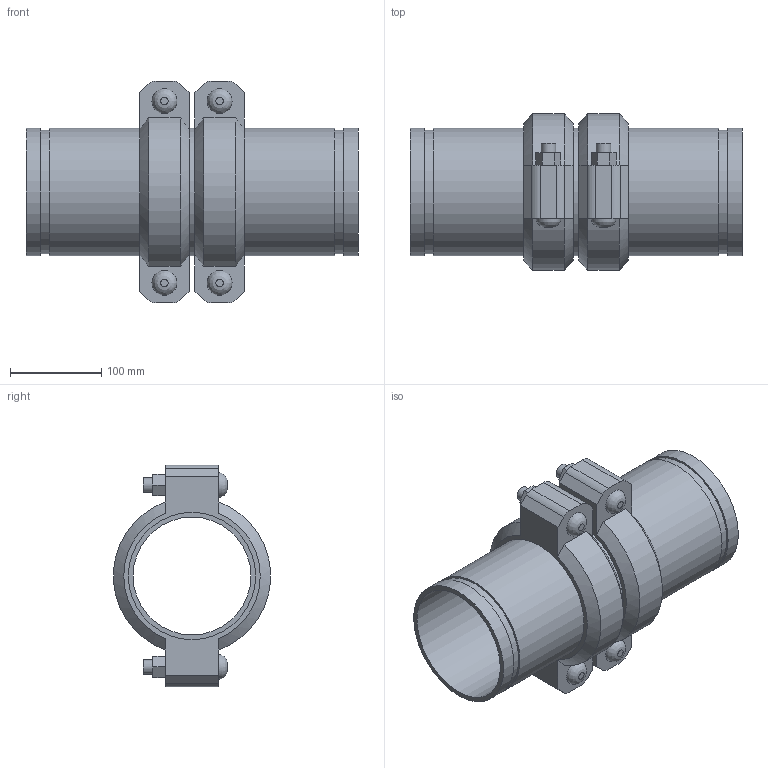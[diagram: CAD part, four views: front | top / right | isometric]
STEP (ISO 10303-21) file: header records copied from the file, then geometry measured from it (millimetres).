
FILE_DESCRIPTION(/* description */ ('VIC EXPANSION JOINT 2 COUPLINGS COMPRESSED STYLE 155 (OGS)','CAx-IF Rec.Pracs.---Representation and Presentation of Product Manufacturing Information (PMI)---4.0---2014-10-13'),/* implementation_level */ '2;1');
FILE_NAME(/* name */ 'C:\Users\kkamble\AppData\Roaming\Autodesk\ApplicationPlugins\Victaulic.Temp\A11\Victaulic_IPS_Expansion Joint_Compressed_2 Couplings_Style 155 (OGS)_05.0 (139.7) (125).stp',/* time_stamp */ '2021-06-27T00:23:41+02:00',/* author */ ('kkamble'),/* organization */ ('Victaulic'),/* preprocessor_version */ 'ST-DEVELOPER v17.2',/* originating_system */ 'Autodesk Inventor 2019',/* authorisation */ '');
FILE_SCHEMA (('AP242_MANAGED_MODEL_BASED_3D_ENGINEERING_MIM_LF { 1 0 10303 442 1 1 4 }'));
Length unit declared in the file: inch
Products named in the file (4): 155-05.0 (139.7); Nipple-05.0 (139.7); Nipple-05.0 (139.7)_1; 075_2_Coup05.0 (139.7)
Assembly tree (5 placements, depth 2):
  155-05.0 (139.7)
    Nipple-05.0 (139.7)  x2
    Nipple-05.0 (139.7)_1
    075_2_Coup05.0 (139.7)  x2
Bounding box: 364.49 x 172.14 x 243.59 mm (x, y, z)
Volume: 2002501.5 mm3; surface area: 527147.3 mm2
Topology: 5 solids, 9 shells, 150 faces, 356 edges, 252 vertices
Faces by surface type: plane 90, cylinder 48, cone 8, bspline 4
Full cylindrical faces by diameter (mm): 15.875 x8, 17.424 x4, 129.388 x3, 133.35 x2, 135.484 x6, 139.7 x13
Entity records: 2762 total; most frequent: CARTESIAN_POINT 489, DIRECTION 453, ORIENTED_EDGE 386, EDGE_CURVE 193, AXIS2_PLACEMENT_3D 180, VERTEX_POINT 138, EDGE_LOOP 107, LINE 93
